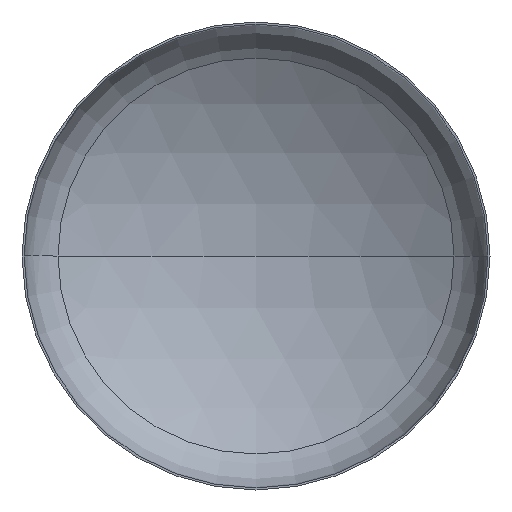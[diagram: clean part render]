
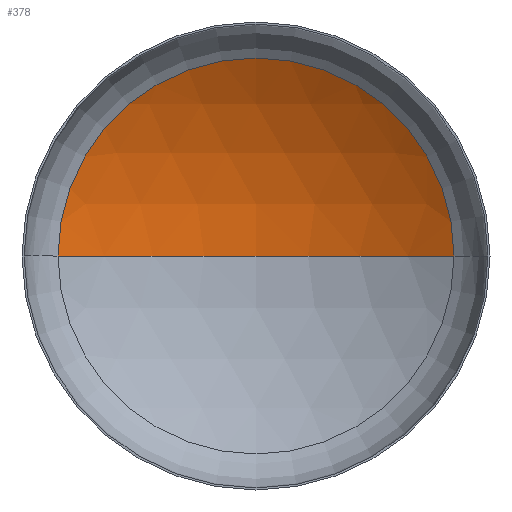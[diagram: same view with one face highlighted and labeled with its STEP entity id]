
A CAD part, front view. The second image highlights one B-rep face of the part: STEP entity #378.
In plain terms, the highlighted spherical face has radius 6400 mm.
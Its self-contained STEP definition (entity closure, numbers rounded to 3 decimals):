
#12 = CARTESIAN_POINT ( 'NONE',  ( 0., -4277.954, 0. ) ) ;
#16 = VERTEX_POINT ( 'NONE', #247 ) ;
#27 = ORIENTED_EDGE ( 'NONE', *, *, #151, .F. ) ;
#60 = CIRCLE ( 'NONE', #69, 6400. ) ;
#69 = AXIS2_PLACEMENT_3D ( 'NONE', #12, #274, #83 ) ;
#76 = AXIS2_PLACEMENT_3D ( 'NONE', #206, #372, #231 ) ;
#80 = AXIS2_PLACEMENT_3D ( 'NONE', #295, #160, #317 ) ;
#83 = DIRECTION ( 'NONE',  ( 1., 0., 0. ) ) ;
#85 = VERTEX_POINT ( 'NONE', #311 ) ;
#129 = ORIENTED_EDGE ( 'NONE', *, *, #145, .T. ) ;
#131 = VERTEX_POINT ( 'NONE', #394 ) ;
#137 = EDGE_LOOP ( 'NONE', ( #27, #150, #129 ) ) ;
#145 = EDGE_CURVE ( 'NONE', #85, #16, #253, .T. ) ;
#146 = EDGE_CURVE ( 'NONE', #131, #85, #374, .T. ) ;
#150 = ORIENTED_EDGE ( 'NONE', *, *, #146, .T. ) ;
#151 = EDGE_CURVE ( 'NONE', #131, #16, #60, .T. ) ;
#160 = DIRECTION ( 'NONE',  ( 0., -1., 0. ) ) ;
#198 = FACE_OUTER_BOUND ( 'NONE', #137, .T. ) ;
#206 = CARTESIAN_POINT ( 'NONE',  ( 0., -4277.954, 0. ) ) ;
#231 = DIRECTION ( 'NONE',  ( -1., 0., 0. ) ) ;
#239 = DIRECTION ( 'NONE',  ( 0., 0., -1. ) ) ;
#247 = CARTESIAN_POINT ( 'NONE',  ( -3384.449, 1153.943, 0. ) ) ;
#253 = CIRCLE ( 'NONE', #80, 3384.449 ) ;
#274 = DIRECTION ( 'NONE',  ( 0., 0., 1. ) ) ;
#276 = AXIS2_PLACEMENT_3D ( 'NONE', #354, #239, #403 ) ;
#295 = CARTESIAN_POINT ( 'NONE',  ( 0., 1153.943, 0. ) ) ;
#311 = CARTESIAN_POINT ( 'NONE',  ( 3384.449, 1153.943, 0. ) ) ;
#317 = DIRECTION ( 'NONE',  ( 1., 0., 0. ) ) ;
#354 = CARTESIAN_POINT ( 'NONE',  ( 0., -4277.954, 0. ) ) ;
#372 = DIRECTION ( 'NONE',  ( 0., 0., -1. ) ) ;
#374 = CIRCLE ( 'NONE', #76, 6400. ) ;
#378 = ADVANCED_FACE ( 'NONE', ( #198 ), #388, .F. ) ;
#388 = SPHERICAL_SURFACE ( 'NONE', #276, 6400. ) ;
#394 = CARTESIAN_POINT ( 'NONE',  ( 0., 2122.046, 0. ) ) ;
#403 = DIRECTION ( 'NONE',  ( -1., 0., 0. ) ) ;
